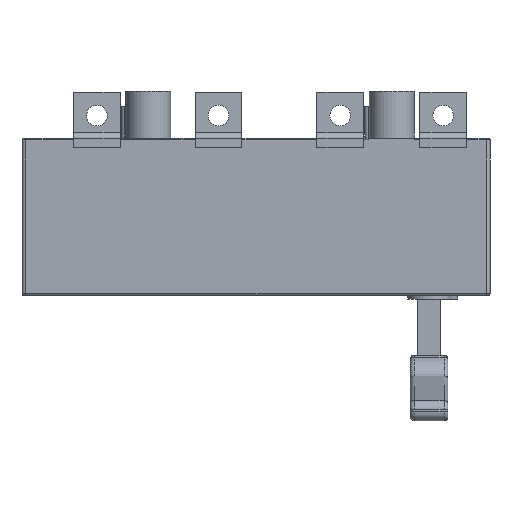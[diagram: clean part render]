
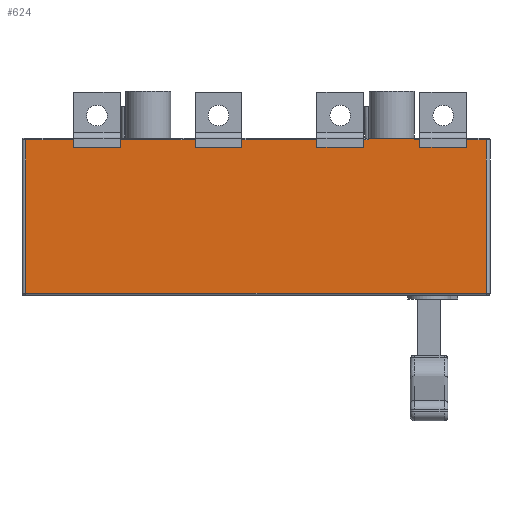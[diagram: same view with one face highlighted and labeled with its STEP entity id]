
A CAD part, front view. The second image highlights one B-rep face of the part: STEP entity #624.
In plain terms, the highlighted planar face has unit normal (0, -1, 0).
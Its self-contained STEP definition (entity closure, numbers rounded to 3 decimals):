
#245=FACE_OUTER_BOUND('',#1985,.T.);
#624=ADVANCED_FACE('',(#245),#745,.T.);
#745=PLANE('',#5112);
#746=LINE('',#6533,#1119);
#753=LINE('',#6554,#1126);
#755=LINE('',#6557,#1128);
#773=LINE('',#6615,#1146);
#780=LINE('',#6633,#1153);
#782=LINE('',#6639,#1155);
#800=LINE('',#6697,#1173);
#807=LINE('',#6715,#1180);
#809=LINE('',#6724,#1182);
#827=LINE('',#6779,#1200);
#834=LINE('',#6797,#1207);
#836=LINE('',#6806,#1209);
#998=LINE('',#7456,#1371);
#1006=LINE('',#7546,#1379);
#1011=LINE('',#7563,#1384);
#1012=LINE('',#7565,#1385);
#1036=LINE('',#7691,#1409);
#1043=LINE('',#7740,#1416);
#1075=LINE('',#7840,#1448);
#1081=LINE('',#7852,#1454);
#1091=LINE('',#7872,#1464);
#1110=LINE('',#7913,#1483);
#1112=LINE('',#7917,#1485);
#1115=LINE('',#7923,#1488);
#1116=LINE('',#7925,#1489);
#1118=LINE('',#7929,#1491);
#1119=VECTOR('',#5121,1.);
#1126=VECTOR('',#5138,1.);
#1128=VECTOR('',#5142,1.);
#1146=VECTOR('',#5198,1.);
#1153=VECTOR('',#5213,1.);
#1155=VECTOR('',#5219,1.);
#1173=VECTOR('',#5275,1.);
#1180=VECTOR('',#5290,1.);
#1182=VECTOR('',#5298,1.);
#1200=VECTOR('',#5352,1.);
#1207=VECTOR('',#5367,1.);
#1209=VECTOR('',#5375,1.);
#1371=VECTOR('',#6055,1.);
#1379=VECTOR('',#6119,1.);
#1384=VECTOR('',#6142,1.);
#1385=VECTOR('',#6145,1.);
#1409=VECTOR('',#6285,1.);
#1416=VECTOR('',#6306,1.);
#1448=VECTOR('',#6406,1.);
#1454=VECTOR('',#6418,1.);
#1464=VECTOR('',#6440,1.);
#1483=VECTOR('',#6495,1.);
#1485=VECTOR('',#6501,1.);
#1488=VECTOR('',#6510,1.);
#1489=VECTOR('',#6513,1.);
#1491=VECTOR('',#6519,1.);
#1985=EDGE_LOOP('',(#3232,#3233,#3234,#3235,#3236,#3237,#3238,#3239,#3240,
#3241,#3242,#3243,#3244,#3245,#3246,#3247,#3248,#3249,#3250,#3251,#3252,
#3253,#3254,#3255,#3256,#3257));
#3232=ORIENTED_EDGE('',*,*,#3710,.F.);
#3233=ORIENTED_EDGE('',*,*,#3699,.T.);
#3234=ORIENTED_EDGE('',*,*,#3708,.F.);
#3235=ORIENTED_EDGE('',*,*,#4129,.T.);
#3236=ORIENTED_EDGE('',*,*,#4294,.T.);
#3237=ORIENTED_EDGE('',*,*,#4287,.F.);
#3238=ORIENTED_EDGE('',*,*,#4223,.F.);
#3239=ORIENTED_EDGE('',*,*,#4305,.T.);
#3240=ORIENTED_EDGE('',*,*,#4236,.T.);
#3241=ORIENTED_EDGE('',*,*,#4333,.T.);
#3242=ORIENTED_EDGE('',*,*,#3746,.T.);
#3243=ORIENTED_EDGE('',*,*,#3738,.T.);
#3244=ORIENTED_EDGE('',*,*,#3749,.T.);
#3245=ORIENTED_EDGE('',*,*,#4334,.T.);
#3246=ORIENTED_EDGE('',*,*,#3785,.F.);
#3247=ORIENTED_EDGE('',*,*,#3777,.F.);
#3248=ORIENTED_EDGE('',*,*,#3789,.F.);
#3249=ORIENTED_EDGE('',*,*,#4330,.T.);
#3250=ORIENTED_EDGE('',*,*,#3824,.F.);
#3251=ORIENTED_EDGE('',*,*,#3816,.F.);
#3252=ORIENTED_EDGE('',*,*,#3828,.F.);
#3253=ORIENTED_EDGE('',*,*,#4328,.T.);
#3254=ORIENTED_EDGE('',*,*,#4168,.F.);
#3255=ORIENTED_EDGE('',*,*,#4158,.T.);
#3256=ORIENTED_EDGE('',*,*,#4167,.T.);
#3257=ORIENTED_EDGE('',*,*,#4336,.T.);
#3271=VERTEX_POINT('',#6534);
#3272=VERTEX_POINT('',#6535);
#3279=VERTEX_POINT('',#6553);
#3280=VERTEX_POINT('',#6558);
#3301=VERTEX_POINT('',#6616);
#3302=VERTEX_POINT('',#6617);
#3308=VERTEX_POINT('',#6634);
#3310=VERTEX_POINT('',#6640);
#3331=VERTEX_POINT('',#6698);
#3332=VERTEX_POINT('',#6699);
#3338=VERTEX_POINT('',#6716);
#3341=VERTEX_POINT('',#6723);
#3361=VERTEX_POINT('',#6780);
#3362=VERTEX_POINT('',#6781);
#3368=VERTEX_POINT('',#6798);
#3371=VERTEX_POINT('',#6805);
#3570=VERTEX_POINT('',#7433);
#3572=VERTEX_POINT('',#7455);
#3579=VERTEX_POINT('',#7474);
#3589=VERTEX_POINT('',#7501);
#3593=VERTEX_POINT('',#7543);
#3641=VERTEX_POINT('',#7690);
#3642=VERTEX_POINT('',#7692);
#3649=VERTEX_POINT('',#7722);
#3652=VERTEX_POINT('',#7739);
#3687=VERTEX_POINT('',#7841);
#3699=EDGE_CURVE('',#3271,#3272,#746,.T.);
#3708=EDGE_CURVE('',#3279,#3272,#753,.T.);
#3710=EDGE_CURVE('',#3271,#3280,#755,.T.);
#3738=EDGE_CURVE('',#3301,#3302,#773,.T.);
#3746=EDGE_CURVE('',#3308,#3301,#780,.T.);
#3749=EDGE_CURVE('',#3302,#3310,#782,.T.);
#3777=EDGE_CURVE('',#3331,#3332,#800,.T.);
#3785=EDGE_CURVE('',#3332,#3338,#807,.T.);
#3789=EDGE_CURVE('',#3341,#3331,#809,.T.);
#3816=EDGE_CURVE('',#3361,#3362,#827,.T.);
#3824=EDGE_CURVE('',#3362,#3368,#834,.T.);
#3828=EDGE_CURVE('',#3371,#3361,#836,.T.);
#4129=EDGE_CURVE('',#3279,#3572,#998,.T.);
#4158=EDGE_CURVE('',#3593,#3589,#1006,.T.);
#4167=EDGE_CURVE('',#3589,#3570,#1011,.T.);
#4168=EDGE_CURVE('',#3593,#3579,#1012,.T.);
#4223=EDGE_CURVE('',#3641,#3642,#1036,.T.);
#4236=EDGE_CURVE('',#3649,#3652,#1043,.T.);
#4287=EDGE_CURVE('',#3642,#3687,#1075,.T.);
#4294=EDGE_CURVE('',#3572,#3687,#1081,.T.);
#4305=EDGE_CURVE('',#3641,#3649,#1091,.T.);
#4328=EDGE_CURVE('',#3371,#3579,#1110,.T.);
#4330=EDGE_CURVE('',#3341,#3368,#1112,.T.);
#4333=EDGE_CURVE('',#3652,#3308,#1115,.T.);
#4334=EDGE_CURVE('',#3310,#3338,#1116,.T.);
#4336=EDGE_CURVE('',#3570,#3280,#1118,.T.);
#5112=AXIS2_PLACEMENT_3D('',#7930,#6520,#6521);
#5121=DIRECTION('',(-1.,0.,0.));
#5138=DIRECTION('',(0.,0.,-1.));
#5142=DIRECTION('',(0.,0.,1.));
#5198=DIRECTION('',(-1.,0.,0.));
#5213=DIRECTION('',(0.,0.,-1.));
#5219=DIRECTION('',(0.,0.,1.));
#5275=DIRECTION('',(1.,0.,0.));
#5290=DIRECTION('',(0.,0.,1.));
#5298=DIRECTION('',(0.,0.,-1.));
#5352=DIRECTION('',(1.,0.,0.));
#5367=DIRECTION('',(0.,0.,1.));
#5375=DIRECTION('',(0.,0.,-1.));
#6055=DIRECTION('',(-1.,0.,0.));
#6119=DIRECTION('',(1.,0.,0.));
#6142=DIRECTION('',(0.,0.,1.));
#6145=DIRECTION('',(0.,0.,1.));
#6285=DIRECTION('',(0.,0.,-1.));
#6306=DIRECTION('',(0.,0.,-1.));
#6406=DIRECTION('',(1.,0.,0.));
#6418=DIRECTION('',(0.,0.,1.));
#6440=DIRECTION('',(-1.,0.,0.));
#6495=DIRECTION('',(-1.,0.,0.));
#6501=DIRECTION('',(-1.,0.,0.));
#6510=DIRECTION('',(-1.,0.,0.));
#6513=DIRECTION('',(-1.,0.,0.));
#6519=DIRECTION('',(-1.,0.,0.));
#6520=DIRECTION('',(0.,-1.,0.));
#6521=DIRECTION('',(1.,0.,0.));
#6533=CARTESIAN_POINT('',(-12.,-52.5,-5.));
#6534=CARTESIAN_POINT('',(40.,-52.5,-5.));
#6535=CARTESIAN_POINT('',(15.,-52.5,-5.));
#6553=CARTESIAN_POINT('',(15.,-52.5,-1.));
#6554=CARTESIAN_POINT('',(15.,-52.5,4.));
#6557=CARTESIAN_POINT('',(40.,-52.5,4.));
#6558=CARTESIAN_POINT('',(40.,-52.5,-1.));
#6615=CARTESIAN_POINT('',(-12.,-52.5,-5.));
#6616=CARTESIAN_POINT('',(-15.,-52.5,-5.));
#6617=CARTESIAN_POINT('',(-40.,-52.5,-5.));
#6633=CARTESIAN_POINT('',(-15.,-52.5,4.));
#6634=CARTESIAN_POINT('',(-15.,-52.5,-1.));
#6639=CARTESIAN_POINT('',(-40.,-52.5,4.));
#6640=CARTESIAN_POINT('',(-40.,-52.5,-1.));
#6697=CARTESIAN_POINT('',(-12.,-52.5,-5.));
#6698=CARTESIAN_POINT('',(-105.,-52.5,-5.));
#6699=CARTESIAN_POINT('',(-80.,-52.5,-5.));
#6715=CARTESIAN_POINT('',(-80.,-52.5,4.));
#6716=CARTESIAN_POINT('',(-80.,-52.5,-1.));
#6723=CARTESIAN_POINT('',(-105.,-52.5,-1.));
#6724=CARTESIAN_POINT('',(-105.,-52.5,4.));
#6779=CARTESIAN_POINT('',(-12.,-52.5,-5.));
#6780=CARTESIAN_POINT('',(-170.,-52.5,-5.));
#6781=CARTESIAN_POINT('',(-145.,-52.5,-5.));
#6797=CARTESIAN_POINT('',(-145.,-52.5,4.));
#6798=CARTESIAN_POINT('',(-145.,-52.5,-1.));
#6805=CARTESIAN_POINT('',(-170.,-52.5,-1.));
#6806=CARTESIAN_POINT('',(-170.,-52.5,4.));
#7433=CARTESIAN_POINT('',(50.5,-52.5,-1.));
#7455=CARTESIAN_POINT('',(12.,-52.5,-1.));
#7456=CARTESIAN_POINT('',(12.,-52.5,-1.));
#7474=CARTESIAN_POINT('',(-195.5,-52.5,-1.));
#7501=CARTESIAN_POINT('',(50.5,-52.5,-83.));
#7543=CARTESIAN_POINT('',(-195.5,-52.5,-83.));
#7546=CARTESIAN_POINT('',(-12.,-52.5,-83.));
#7563=CARTESIAN_POINT('',(50.5,-52.5,-84.));
#7565=CARTESIAN_POINT('',(-195.5,-52.5,-84.));
#7690=CARTESIAN_POINT('',(-12.,-52.5,17.));
#7691=CARTESIAN_POINT('',(-12.,-52.5,25.));
#7692=CARTESIAN_POINT('',(-12.,-52.5,0.));
#7722=CARTESIAN_POINT('',(-12.5,-52.5,17.));
#7739=CARTESIAN_POINT('',(-12.5,-52.5,-1.));
#7740=CARTESIAN_POINT('',(-12.5,-52.5,4.));
#7840=CARTESIAN_POINT('',(50.5,-52.5,0.));
#7841=CARTESIAN_POINT('',(12.,-52.5,0.));
#7852=CARTESIAN_POINT('',(12.,-52.5,4.));
#7872=CARTESIAN_POINT('',(7.5,-52.5,17.));
#7913=CARTESIAN_POINT('',(-195.5,-52.5,-1.));
#7917=CARTESIAN_POINT('',(-195.5,-52.5,-1.));
#7923=CARTESIAN_POINT('',(-195.5,-52.5,-1.));
#7925=CARTESIAN_POINT('',(-195.5,-52.5,-1.));
#7929=CARTESIAN_POINT('',(12.,-52.5,-1.));
#7930=CARTESIAN_POINT('',(-12.,-52.5,4.));
